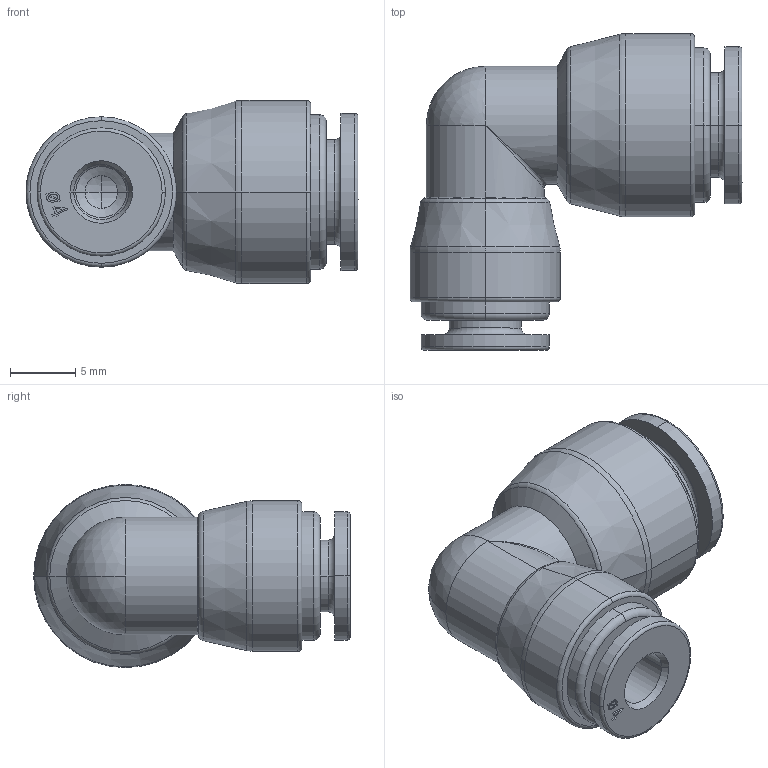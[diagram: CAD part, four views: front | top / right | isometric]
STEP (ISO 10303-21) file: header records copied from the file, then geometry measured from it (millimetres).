
FILE_DESCRIPTION (( 'STEP AP214' ), '1' );
FILE_NAME ('5313000014A.STEP', '2024-10-21T06:58:01', ( '' ), ( '' ), 'SwSTEP 2.0', 'SolidWorks 2020', '' );
FILE_SCHEMA (( 'AUTOMOTIVE_DESIGN' ));
Length unit declared in the file: millimetre
Products named in the file (1): 5313000014A
Bounding box: 25.37 x 24.2 x 14 mm (x, y, z)
Volume: 2687.9 mm3; surface area: 2272.2 mm2
Topology: 1 solids, 1 shells, 168 faces, 401 edges, 245 vertices
Faces by surface type: plane 49, bspline 43, torus 28, cylinder 28, cone 16, sphere 4
Entity records: 8399 total; most frequent: CARTESIAN_POINT 2883, ORIENTED_EDGE 786, DIRECTION 681, EDGE_CURVE 393, AXIS2_PLACEMENT_3D 251, VERTEX_POINT 243, EDGE_LOOP 186, LINE 179
